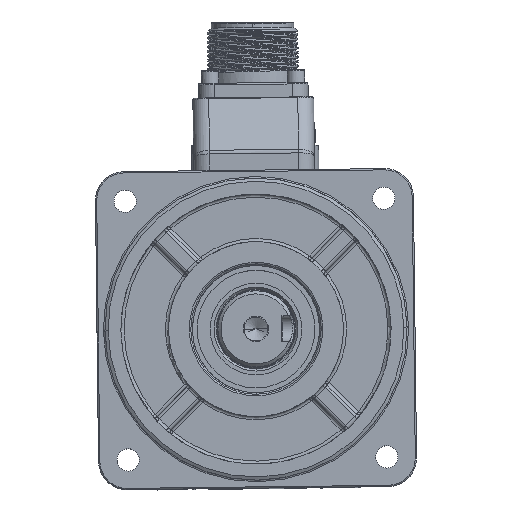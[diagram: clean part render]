
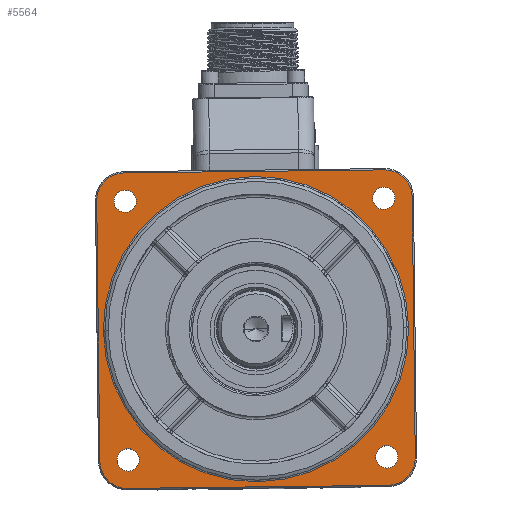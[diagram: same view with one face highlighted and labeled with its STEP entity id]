
A CAD part, top view. The second image highlights one B-rep face of the part: STEP entity #5564.
In plain terms, the highlighted planar face has unit normal (0, 0, 1) as drawn and (0, 1, 0) by its records, which use the part's own axes.
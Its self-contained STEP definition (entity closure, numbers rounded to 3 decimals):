
#165=CARTESIAN_POINT('',(-41.,0.,-41.));
#166=DIRECTION('',(0.,-1.,0.));
#167=DIRECTION('',(-1.,0.,0.));
#168=AXIS2_PLACEMENT_3D('',#165,#166,#167);
#170=DIRECTION('',(1.,0.,0.));
#171=VECTOR('',#170,82.);
#172=CARTESIAN_POINT('',(-41.,0.,
-49.6));
#173=LINE('',#172,#171);
#174=CARTESIAN_POINT('',(41.,0.,-41.));
#175=DIRECTION('',(0.,-1.,0.));
#176=DIRECTION('',(0.,0.,-1.));
#177=AXIS2_PLACEMENT_3D('',#174,#175,#176);
#179=DIRECTION('',(0.,0.,1.));
#180=VECTOR('',#179,82.);
#181=CARTESIAN_POINT('',(49.6,0.,
-41.));
#182=LINE('',#181,#180);
#183=CARTESIAN_POINT('',(41.,0.,41.));
#184=DIRECTION('',(0.,-1.,0.));
#185=DIRECTION('',(1.,0.,0.));
#186=AXIS2_PLACEMENT_3D('',#183,#184,#185);
#188=DIRECTION('',(-1.,0.,0.));
#189=VECTOR('',#188,82.);
#190=CARTESIAN_POINT('',(41.,0.,49.6));
#191=LINE('',#190,#189);
#192=CARTESIAN_POINT('',(-41.,0.,41.));
#193=DIRECTION('',(0.,-1.,0.));
#194=DIRECTION('',(0.,0.,1.));
#195=AXIS2_PLACEMENT_3D('',#192,#193,#194);
#197=DIRECTION('',(0.,0.,-1.));
#198=VECTOR('',#197,82.);
#199=CARTESIAN_POINT('',(-49.6,0.,
41.));
#200=LINE('',#199,#198);
#201=CARTESIAN_POINT('',(-40.659,0.,-40.659));
#202=DIRECTION('',(0.,1.,0.));
#203=DIRECTION('',(0.,0.,1.));
#204=AXIS2_PLACEMENT_3D('',#201,#202,#203);
#206=CARTESIAN_POINT('',(-40.659,0.,-40.659));
#207=DIRECTION('',(0.,1.,0.));
#208=DIRECTION('',(0.,0.,-1.));
#209=AXIS2_PLACEMENT_3D('',#206,#207,#208);
#211=CARTESIAN_POINT('',(-40.659,0.,40.659));
#212=DIRECTION('',(0.,1.,0.));
#213=DIRECTION('',(1.,0.,0.));
#214=AXIS2_PLACEMENT_3D('',#211,#212,#213);
#216=CARTESIAN_POINT('',(-40.659,0.,40.659));
#217=DIRECTION('',(0.,1.,0.));
#218=DIRECTION('',(-1.,0.,0.));
#219=AXIS2_PLACEMENT_3D('',#216,#217,#218);
#221=CARTESIAN_POINT('',(40.659,0.,40.659));
#222=DIRECTION('',(0.,1.,0.));
#223=DIRECTION('',(0.,0.,-1.));
#224=AXIS2_PLACEMENT_3D('',#221,#222,#223);
#226=CARTESIAN_POINT('',(40.659,0.,40.659));
#227=DIRECTION('',(0.,1.,0.));
#228=DIRECTION('',(0.,0.,1.));
#229=AXIS2_PLACEMENT_3D('',#226,#227,#228);
#231=CARTESIAN_POINT('',(0.,0.,0.));
#232=DIRECTION('',(0.,1.,0.));
#233=DIRECTION('',(-1.,0.,0.));
#234=AXIS2_PLACEMENT_3D('',#231,#232,#233);
#236=CARTESIAN_POINT('',(0.,0.,0.));
#237=DIRECTION('',(0.,1.,0.));
#238=DIRECTION('',(-1.,0.,0.006));
#239=AXIS2_PLACEMENT_3D('',#236,#237,#238);
#241=CARTESIAN_POINT('',(0.,0.,0.));
#242=DIRECTION('',(0.,1.,0.));
#243=DIRECTION('',(1.,0.,0.));
#244=AXIS2_PLACEMENT_3D('',#241,#242,#243);
#246=CARTESIAN_POINT('',(0.,0.,0.));
#247=DIRECTION('',(0.,1.,0.));
#248=DIRECTION('',(1.,0.,-0.006));
#249=AXIS2_PLACEMENT_3D('',#246,#247,#248);
#251=CARTESIAN_POINT('',(40.659,0.,-40.659));
#252=DIRECTION('',(0.,1.,0.));
#253=DIRECTION('',(-1.,0.,0.));
#254=AXIS2_PLACEMENT_3D('',#251,#252,#253);
#256=CARTESIAN_POINT('',(40.659,0.,-40.659));
#257=DIRECTION('',(0.,1.,0.));
#258=DIRECTION('',(1.,0.,0.));
#259=AXIS2_PLACEMENT_3D('',#256,#257,#258);
#5002=CARTESIAN_POINT('',(41.,0.,
49.6));
#5003=CARTESIAN_POINT('',(-41.,0.,
49.6));
#5004=VERTEX_POINT('',#5002);
#5005=VERTEX_POINT('',#5003);
#5006=CARTESIAN_POINT('',(-49.6,0.,-41.));
#5007=CARTESIAN_POINT('',(-41.,0.,-49.6));
#5008=VERTEX_POINT('',#5006);
#5009=VERTEX_POINT('',#5007);
#5010=CARTESIAN_POINT('',(41.,0.,
-49.6));
#5011=VERTEX_POINT('',#5010);
#5012=CARTESIAN_POINT('',(49.6,0.,-41.));
#5013=VERTEX_POINT('',#5012);
#5014=CARTESIAN_POINT('',(49.6,0.,41.));
#5015=VERTEX_POINT('',#5014);
#5016=CARTESIAN_POINT('',(-49.6,0.,41.));
#5017=VERTEX_POINT('',#5016);
#5018=CARTESIAN_POINT('',(-40.659,0.,-37.159));
#5019=CARTESIAN_POINT('',(-40.659,0.,-44.159));
#5020=VERTEX_POINT('',#5018);
#5021=VERTEX_POINT('',#5019);
#5022=CARTESIAN_POINT('',(-37.159,0.,40.659));
#5023=CARTESIAN_POINT('',(-44.159,0.,40.659));
#5024=VERTEX_POINT('',#5022);
#5025=VERTEX_POINT('',#5023);
#5026=CARTESIAN_POINT('',(40.659,0.,37.159));
#5027=CARTESIAN_POINT('',(40.659,0.,44.159));
#5028=VERTEX_POINT('',#5026);
#5029=VERTEX_POINT('',#5027);
#5030=CARTESIAN_POINT('',(-47.999,0.,0.284));
#5031=CARTESIAN_POINT('',(48.,0.,0.));
#5032=VERTEX_POINT('',#5030);
#5033=VERTEX_POINT('',#5031);
#5034=CARTESIAN_POINT('',(-48.,0.,0.));
#5035=VERTEX_POINT('',#5034);
#5036=CARTESIAN_POINT('',(47.999,0.,-0.284));
#5037=VERTEX_POINT('',#5036);
#5038=CARTESIAN_POINT('',(37.159,0.,-40.659));
#5039=CARTESIAN_POINT('',(44.159,0.,-40.659));
#5040=VERTEX_POINT('',#5038);
#5041=VERTEX_POINT('',#5039);
#5511=CARTESIAN_POINT('',(0.,0.,0.));
#5512=DIRECTION('',(0.,-1.,0.));
#5513=DIRECTION('',(-1.,0.,0.));
#5514=AXIS2_PLACEMENT_3D('',#5511,#5512,#5513);
#5515=PLANE('',#5514);
#5517=ORIENTED_EDGE('',*,*,#5516,.T.);
#5519=ORIENTED_EDGE('',*,*,#5518,.T.);
#5521=ORIENTED_EDGE('',*,*,#5520,.T.);
#5523=ORIENTED_EDGE('',*,*,#5522,.T.);
#5525=ORIENTED_EDGE('',*,*,#5524,.T.);
#5527=ORIENTED_EDGE('',*,*,#5526,.T.);
#5529=ORIENTED_EDGE('',*,*,#5528,.T.);
#5531=ORIENTED_EDGE('',*,*,#5530,.T.);
#5532=EDGE_LOOP('',(#5517,#5519,#5521,#5523,#5525,#5527,#5529,#5531));
#5533=FACE_OUTER_BOUND('',#5532,.F.);
#5535=ORIENTED_EDGE('',*,*,#5534,.T.);
#5537=ORIENTED_EDGE('',*,*,#5536,.T.);
#5538=EDGE_LOOP('',(#5535,#5537));
#5539=FACE_BOUND('',#5538,.F.);
#5541=ORIENTED_EDGE('',*,*,#5540,.T.);
#5543=ORIENTED_EDGE('',*,*,#5542,.T.);
#5544=EDGE_LOOP('',(#5541,#5543));
#5545=FACE_BOUND('',#5544,.F.);
#5547=ORIENTED_EDGE('',*,*,#5546,.T.);
#5549=ORIENTED_EDGE('',*,*,#5548,.T.);
#5550=EDGE_LOOP('',(#5547,#5549));
#5551=FACE_BOUND('',#5550,.F.);
#5552=ORIENTED_EDGE('',*,*,#5488,.T.);
#5553=ORIENTED_EDGE('',*,*,#5486,.T.);
#5554=ORIENTED_EDGE('',*,*,#5505,.T.);
#5555=ORIENTED_EDGE('',*,*,#5503,.T.);
#5556=EDGE_LOOP('',(#5552,#5553,#5554,#5555));
#5557=FACE_BOUND('',#5556,.F.);
#5559=ORIENTED_EDGE('',*,*,#5558,.T.);
#5561=ORIENTED_EDGE('',*,*,#5560,.T.);
#5562=EDGE_LOOP('',(#5559,#5561));
#5563=FACE_BOUND('',#5562,.F.);
#5564=ADVANCED_FACE('',(#5533,#5539,#5545,#5551,#5557,#5563),#5515,.F.);
#169=CIRCLE('',#168,8.6);
#178=CIRCLE('',#177,8.6);
#187=CIRCLE('',#186,8.6);
#196=CIRCLE('',#195,8.6);
#205=CIRCLE('',#204,3.5);
#210=CIRCLE('',#209,3.5);
#215=CIRCLE('',#214,3.5);
#220=CIRCLE('',#219,3.5);
#225=CIRCLE('',#224,3.5);
#230=CIRCLE('',#229,3.5);
#235=CIRCLE('',#234,48.);
#240=CIRCLE('',#239,48.);
#245=CIRCLE('',#244,48.);
#250=CIRCLE('',#249,48.);
#255=CIRCLE('',#254,3.5);
#260=CIRCLE('',#259,3.5);
#5486=EDGE_CURVE('',#5032,#5033,#240,.T.);
#5488=EDGE_CURVE('',#5035,#5032,#235,.T.);
#5503=EDGE_CURVE('',#5037,#5035,#250,.T.);
#5505=EDGE_CURVE('',#5033,#5037,#245,.T.);
#5516=EDGE_CURVE('',#5008,#5009,#169,.T.);
#5518=EDGE_CURVE('',#5009,#5011,#173,.T.);
#5520=EDGE_CURVE('',#5011,#5013,#178,.T.);
#5522=EDGE_CURVE('',#5013,#5015,#182,.T.);
#5524=EDGE_CURVE('',#5015,#5004,#187,.T.);
#5526=EDGE_CURVE('',#5004,#5005,#191,.T.);
#5528=EDGE_CURVE('',#5005,#5017,#196,.T.);
#5530=EDGE_CURVE('',#5017,#5008,#200,.T.);
#5534=EDGE_CURVE('',#5020,#5021,#205,.T.);
#5536=EDGE_CURVE('',#5021,#5020,#210,.T.);
#5540=EDGE_CURVE('',#5024,#5025,#215,.T.);
#5542=EDGE_CURVE('',#5025,#5024,#220,.T.);
#5546=EDGE_CURVE('',#5028,#5029,#225,.T.);
#5548=EDGE_CURVE('',#5029,#5028,#230,.T.);
#5558=EDGE_CURVE('',#5040,#5041,#255,.T.);
#5560=EDGE_CURVE('',#5041,#5040,#260,.T.);
